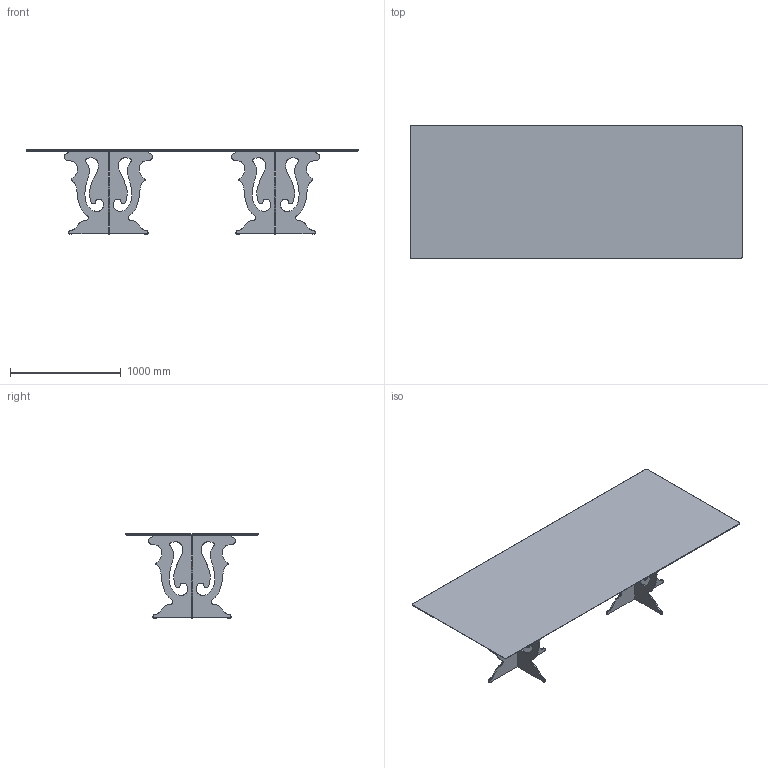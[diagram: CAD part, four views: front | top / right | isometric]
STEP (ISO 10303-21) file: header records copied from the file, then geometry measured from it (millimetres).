
FILE_DESCRIPTION(/* description */ (''),/* implementation_level */ '2;1');
FILE_NAME(/* name */ 'VENICE_table_RET300x120',/* time_stamp */ '2015-09-16T10:51:13+02:00',/* author */ (''),/* organization */ (''),/* preprocessor_version */ 'ST-DEVELOPER v10',/* originating_system */ '',/* authorisation */ '');
FILE_SCHEMA (('CONFIG_CONTROL_DESIGN'));
Length unit declared in the file: millimetre
Products named in the file (1): 1
Bounding box: 3000 x 1200 x 763 mm (x, y, z)
Volume: 59799931.4 mm3; surface area: 10402972.6 mm2
Topology: 23 solids, 23 shells, 590 faces, 1560 edges, 1016 vertices
Faces by surface type: bspline 484, plane 106
Entity records: 20474 total; most frequent: CARTESIAN_POINT 11808, ORIENTED_EDGE 3120, EDGE_CURVE 1560, VERTEX_POINT 1016, B_SPLINE_CURVE_WITH_KNOTS 674, EDGE_LOOP 606, ADVANCED_FACE 590, FACE_OUTER_BOUND 590
